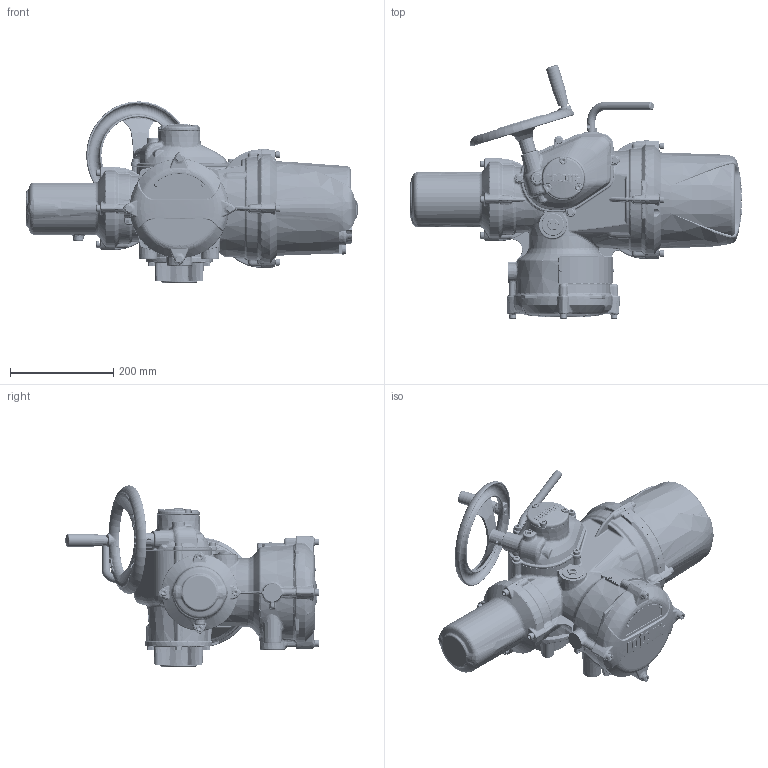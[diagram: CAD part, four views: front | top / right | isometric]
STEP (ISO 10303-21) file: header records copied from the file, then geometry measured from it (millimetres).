
FILE_DESCRIPTION(/* description */ ('Unknown'),/* implementation_level */ '2;1');
FILE_NAME(/* name */ 'IQ10_SHW_SHORT-ECVR_B1',/* time_stamp */ '2016-02-29T11:26:36+00:00',/* author */ ('Unknown'),/* organization */ ('Unknown'),/* preprocessor_version */ 'ST-DEVELOPER v16',/* originating_system */ 'DEX',/* authorisation */ $);
FILE_SCHEMA (('AUTOMOTIVE_DESIGN {1 0 10303 214 3 1 1}'));
Length unit declared in the file: millimetre
Products named in the file (8): IQ10_SHW_SHORT-ECVR_B1; II1-01-std; II1-04SHW-std; II1-02B1_F10-std; II0-20SHORT-std; II0-55-std; II1-04CAP-std; II1-05-std
Assembly tree (7 placements, depth 2):
  IQ10_SHW_SHORT-ECVR_B1
    II1-01-std
    II1-04SHW-std
    II1-02B1_F10-std
    II0-20SHORT-std
    II0-55-std
    II1-04CAP-std
    II1-05-std
Bounding box: 641.76 x 489.76 x 350.54 mm (x, y, z)
Volume: 14033989 mm3; surface area: 1012251.5 mm2
Topology: 27 solids, 34 shells, 5335 faces, 13198 edges, 7782 vertices
Faces by surface type: bspline 2109, plane 1283, cylinder 787, torus 599, cone 458, sphere 99
Full cylindrical faces by diameter (mm): 1.152 x1, 3 x10, 4.917 x1, 6 x5, 6.2 x2, 6.45 x9, 6.47 x9, 6.5 x1, 6.647 x2, 7 x4, 7.6 x4, 8 x18, 8.1 x1, 8.2 x1, 8.5 x12, 9.7 x2, 10 x1, 11.78 x1, 12.1 x1, 13 x20, 13.25 x4, 15.5 x1, 16 x4, 16.186 x1, 16.5 x1, 16.75 x1, 17 x1, 17.02 x1, 24.75 x1, 24.78 x1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
Entity records: 302310 total; most frequent: CARTESIAN_POINT 160524, ORIENTED_EDGE 24694, DIRECTION 18133, EDGE_CURVE 12347, AXIS2_PLACEMENT_3D 7793, VERTEX_POINT 7556, FACE_BOUND 5883, EDGE_LOOP 5858
